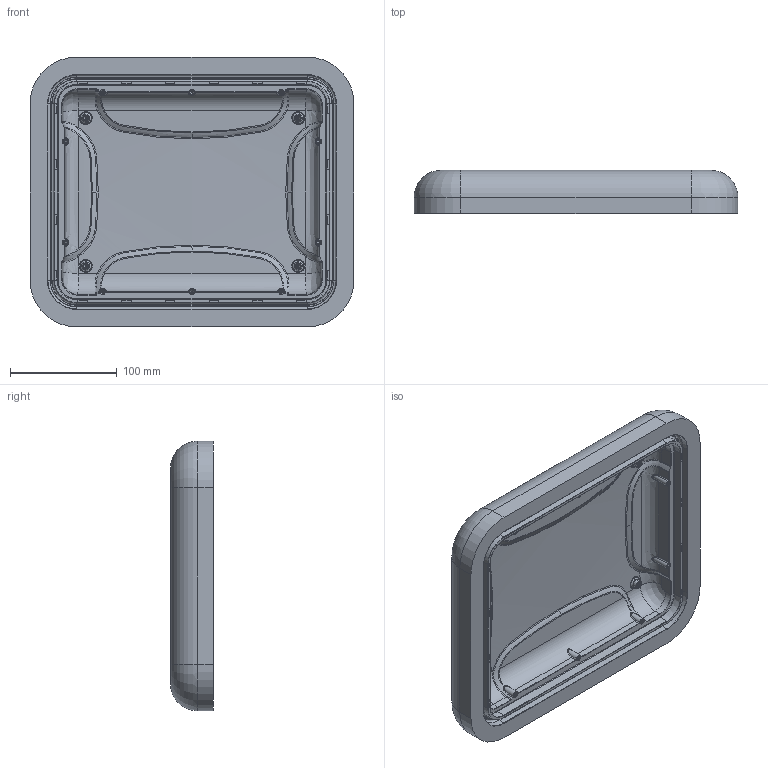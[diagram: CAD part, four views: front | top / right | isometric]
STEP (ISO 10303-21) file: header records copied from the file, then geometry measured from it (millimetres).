
FILE_DESCRIPTION (( 'STEP AP203' ), '1' );
FILE_NAME ('905_R1_Top_INNER_SURFACE_STEP.STEP', '2020-03-18T16:55:44', ( 'Sylvain' ), ( '' ), 'SwSTEP 2.0', 'SolidWorks 2018', '' );
FILE_SCHEMA (( 'CONFIG_CONTROL_DESIGN' ));
Length unit declared in the file: inch
Products named in the file (1): 905_R1_Top_INNER_SURFACE_STEP
Bounding box: 303.45 x 40.22 x 252.65 mm (x, y, z)
Volume: 1323925.8 mm3; surface area: 218558.4 mm2
Topology: 1 solids, 1 shells, 831 faces, 2084 edges, 1332 vertices
Faces by surface type: plane 309, bspline 279, torus 97, cylinder 90, cone 56
Entity records: 72178 total; most frequent: CARTESIAN_POINT 54127, ORIENTED_EDGE 4160, DIRECTION 3057, EDGE_CURVE 2080, VERTEX_POINT 1332, AXIS2_PLACEMENT_3D 1041, VECTOR 975, LINE 975
